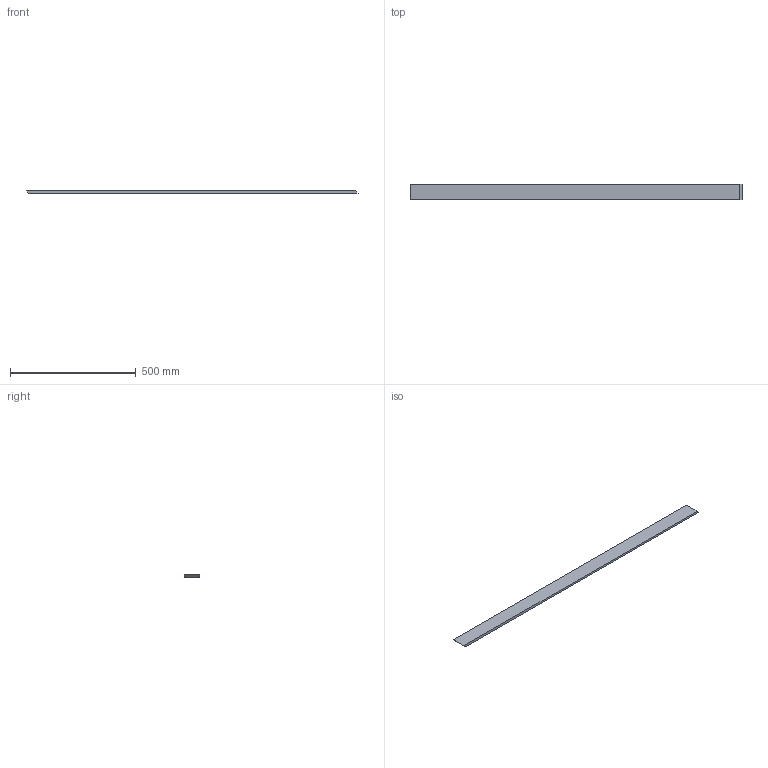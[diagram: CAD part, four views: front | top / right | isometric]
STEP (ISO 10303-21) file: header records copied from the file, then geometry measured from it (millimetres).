
FILE_DESCRIPTION(/* description */ (''),/* implementation_level */ '2;1');
FILE_NAME(/* name */ 'Pos116-Plaatwerk D= 10-S235JRG2-3st',/* time_stamp */ '2024-08-06T13:37:44+02:00',/* author */ (''),/* organization */ (''),/* preprocessor_version */ 'ST-DEVELOPER v16.5',/* originating_system */ 'HiCAD 2024 2901.2 Build 361',/* authorisation */ '');
FILE_SCHEMA (('AUTOMOTIVE_DESIGN { 1 0 10303 214 1 1 1 1 }'));
Length unit declared in the file: millimetre
Products named in the file (1): Pos116-Plaatwerk D= 10-S235JRG2-3st
Bounding box: 1321.91 x 60 x 10 mm (x, y, z)
Volume: 787736.2 mm3; surface area: 185421 mm2
Topology: 1 solids, 1 shells, 6 faces, 12 edges, 8 vertices
Faces by surface type: plane 6
Entity records: 294 total; most frequent: CARTESIAN_POINT 26, PRESENTATION_STYLE_ASSIGNMENT 25, COLOUR_RGB 25, DRAUGHTING_PRE_DEFINED_CURVE_FONT 24, CURVE_STYLE 24, OVER_RIDING_STYLED_ITEM 24, ORIENTED_EDGE 24, DIRECTION 24
